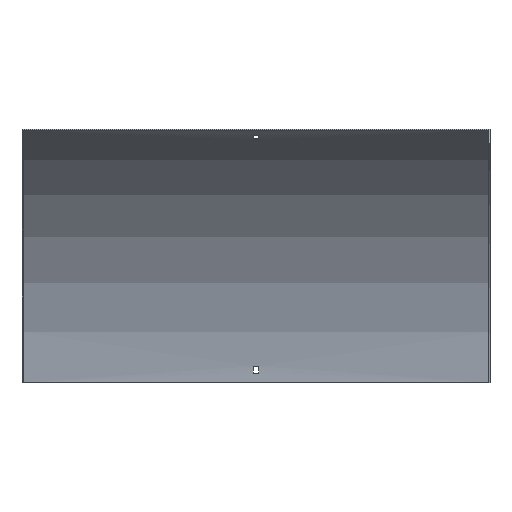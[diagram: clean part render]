
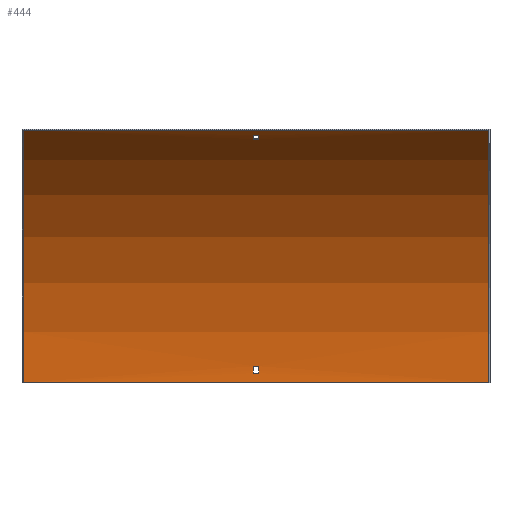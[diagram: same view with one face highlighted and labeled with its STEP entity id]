
A CAD part, front view. The second image highlights one B-rep face of the part: STEP entity #444.
In plain terms, the highlighted cylindrical face has radius 375 mm (diameter 750 mm), a partial arc.
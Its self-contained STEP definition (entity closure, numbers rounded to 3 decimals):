
#5 = DIRECTION ( 'NONE',  ( 0., 1., 0. ) ) ;
#11 = AXIS2_PLACEMENT_3D ( 'NONE', #318, #557, #117 ) ;
#12 = VERTEX_POINT ( 'NONE', #546 ) ;
#17 = CARTESIAN_POINT ( 'NONE',  ( -300., -1.5, 0. ) ) ;
#25 = EDGE_CURVE ( 'NONE', #574, #12, #431, .T. ) ;
#29 = CARTESIAN_POINT ( 'NONE',  ( 3.25, -1.692, 12. ) ) ;
#48 = ORIENTED_EDGE ( 'NONE', *, *, #386, .T. ) ;
#57 = AXIS2_PLACEMENT_3D ( 'NONE', #234, #429, #5 ) ;
#62 = CARTESIAN_POINT ( 'NONE',  ( 301.5, -376.5, 0. ) ) ;
#65 = CARTESIAN_POINT ( 'NONE',  ( 301.5, -171.108, 313.75 ) ) ;
#67 = DIRECTION ( 'NONE',  ( 0., 0., 1. ) ) ;
#75 = DIRECTION ( 'NONE',  ( -1., 0., 0. ) ) ;
#77 = DIRECTION ( 'NONE',  ( -1., 0., 0. ) ) ;
#83 = VERTEX_POINT ( 'NONE', #348 ) ;
#86 = AXIS2_PLACEMENT_3D ( 'NONE', #62, #75, #402 ) ;
#96 = LINE ( 'NONE', #65, #538 ) ;
#97 = VERTEX_POINT ( 'NONE', #472 ) ;
#114 = ORIENTED_EDGE ( 'NONE', *, *, #342, .F. ) ;
#115 = LINE ( 'NONE', #194, #198 ) ;
#117 = DIRECTION ( 'NONE',  ( 0., 0., -1. ) ) ;
#131 = ORIENTED_EDGE ( 'NONE', *, *, #605, .F. ) ;
#132 = LINE ( 'NONE', #182, #237 ) ;
#138 = DIRECTION ( 'NONE',  ( -1., 0., 0. ) ) ;
#143 = CIRCLE ( 'NONE', #470, 375. ) ;
#154 = DIRECTION ( 'NONE',  ( 0., 0., -1. ) ) ;
#156 = DIRECTION ( 'NONE',  ( -1., 0., 0. ) ) ;
#161 = CARTESIAN_POINT ( 'NONE',  ( 300., -189., 324.76 ) ) ;
#164 = EDGE_CURVE ( 'NONE', #97, #517, #96, .T. ) ;
#167 = EDGE_LOOP ( 'NONE', ( #425, #535, #48, #265 ) ) ;
#179 = EDGE_LOOP ( 'NONE', ( #131, #114, #374, #317 ) ) ;
#182 = CARTESIAN_POINT ( 'NONE',  ( 301.5, -178.704, 318.593 ) ) ;
#186 = AXIS2_PLACEMENT_3D ( 'NONE', #310, #295, #154 ) ;
#190 = CIRCLE ( 'NONE', #594, 375. ) ;
#194 = CARTESIAN_POINT ( 'NONE',  ( 301.5, -2.088, 21. ) ) ;
#198 = VECTOR ( 'NONE', #311, 1000. ) ;
#207 = CYLINDRICAL_SURFACE ( 'NONE', #86, 375. ) ;
#217 = ORIENTED_EDGE ( 'NONE', *, *, #486, .F. ) ;
#229 = CARTESIAN_POINT ( 'NONE',  ( 3.25, -376.5, 0. ) ) ;
#230 = CARTESIAN_POINT ( 'NONE',  ( 300., -1.5, 0. ) ) ;
#234 = CARTESIAN_POINT ( 'NONE',  ( -3.25, -376.5, 0. ) ) ;
#237 = VECTOR ( 'NONE', #520, 1000. ) ;
#238 = LINE ( 'NONE', #405, #467 ) ;
#248 = CARTESIAN_POINT ( 'NONE',  ( 300., -376.5, 0. ) ) ;
#259 = VERTEX_POINT ( 'NONE', #320 ) ;
#265 = ORIENTED_EDGE ( 'NONE', *, *, #336, .T. ) ;
#272 = CIRCLE ( 'NONE', #316, 375. ) ;
#279 = CARTESIAN_POINT ( 'NONE',  ( 3.25, -178.704, 318.593 ) ) ;
#295 = DIRECTION ( 'NONE',  ( 1., 0., 0. ) ) ;
#305 = VECTOR ( 'NONE', #77, 1000. ) ;
#310 = CARTESIAN_POINT ( 'NONE',  ( 3.25, -376.5, 0. ) ) ;
#311 = DIRECTION ( 'NONE',  ( -1., 0., 0. ) ) ;
#314 = CARTESIAN_POINT ( 'NONE',  ( -3.25, -1.692, 12. ) ) ;
#316 = AXIS2_PLACEMENT_3D ( 'NONE', #248, #443, #544 ) ;
#317 = ORIENTED_EDGE ( 'NONE', *, *, #548, .T. ) ;
#318 = CARTESIAN_POINT ( 'NONE',  ( -300., -376.5, 0. ) ) ;
#320 = CARTESIAN_POINT ( 'NONE',  ( -3.25, -2.088, 21. ) ) ;
#323 = CIRCLE ( 'NONE', #57, 375. ) ;
#336 = EDGE_CURVE ( 'NONE', #391, #97, #143, .T. ) ;
#339 = CIRCLE ( 'NONE', #11, 375. ) ;
#342 = EDGE_CURVE ( 'NONE', #373, #416, #389, .T. ) ;
#348 = CARTESIAN_POINT ( 'NONE',  ( 300., -189., 324.76 ) ) ;
#357 = CARTESIAN_POINT ( 'NONE',  ( -3.25, -376.5, 0. ) ) ;
#362 = CARTESIAN_POINT ( 'NONE',  ( -3.25, -178.704, 318.593 ) ) ;
#364 = EDGE_LOOP ( 'NONE', ( #394, #217, #480, #551 ) ) ;
#365 = VECTOR ( 'NONE', #138, 1000. ) ;
#373 = VERTEX_POINT ( 'NONE', #230 ) ;
#374 = ORIENTED_EDGE ( 'NONE', *, *, #498, .T. ) ;
#386 = EDGE_CURVE ( 'NONE', #483, #391, #132, .T. ) ;
#387 = VERTEX_POINT ( 'NONE', #432 ) ;
#389 = LINE ( 'NONE', #569, #365 ) ;
#391 = VERTEX_POINT ( 'NONE', #279 ) ;
#392 = EDGE_CURVE ( 'NONE', #517, #483, #323, .T. ) ;
#394 = ORIENTED_EDGE ( 'NONE', *, *, #423, .F. ) ;
#402 = DIRECTION ( 'NONE',  ( 0., 0., 1. ) ) ;
#405 = CARTESIAN_POINT ( 'NONE',  ( 301.5, -1.692, 12. ) ) ;
#407 = LINE ( 'NONE', #161, #305 ) ;
#408 = EDGE_CURVE ( 'NONE', #607, #574, #238, .T. ) ;
#416 = VERTEX_POINT ( 'NONE', #17 ) ;
#423 = EDGE_CURVE ( 'NONE', #259, #607, #190, .T. ) ;
#425 = ORIENTED_EDGE ( 'NONE', *, *, #164, .T. ) ;
#426 = DIRECTION ( 'NONE',  ( -1., 0., 0. ) ) ;
#429 = DIRECTION ( 'NONE',  ( 1., 0., 0. ) ) ;
#431 = CIRCLE ( 'NONE', #186, 375. ) ;
#432 = CARTESIAN_POINT ( 'NONE',  ( -300., -189., 324.76 ) ) ;
#443 = DIRECTION ( 'NONE',  ( 1., 0., 0. ) ) ;
#444 = ADVANCED_FACE ( 'NONE', ( #541, #549, #487 ), #207, .F. ) ;
#467 = VECTOR ( 'NONE', #584, 1000. ) ;
#470 = AXIS2_PLACEMENT_3D ( 'NONE', #229, #426, #474 ) ;
#472 = CARTESIAN_POINT ( 'NONE',  ( 3.25, -171.108, 313.75 ) ) ;
#474 = DIRECTION ( 'NONE',  ( 0., 0., 1. ) ) ;
#480 = ORIENTED_EDGE ( 'NONE', *, *, #25, .F. ) ;
#483 = VERTEX_POINT ( 'NONE', #362 ) ;
#486 = EDGE_CURVE ( 'NONE', #12, #259, #115, .T. ) ;
#487 = FACE_BOUND ( 'NONE', #167, .T. ) ;
#492 = DIRECTION ( 'NONE',  ( -1., 0., 0. ) ) ;
#498 = EDGE_CURVE ( 'NONE', #373, #83, #272, .T. ) ;
#500 = CARTESIAN_POINT ( 'NONE',  ( -3.25, -171.108, 313.75 ) ) ;
#517 = VERTEX_POINT ( 'NONE', #500 ) ;
#520 = DIRECTION ( 'NONE',  ( 1., 0., 0. ) ) ;
#535 = ORIENTED_EDGE ( 'NONE', *, *, #392, .T. ) ;
#538 = VECTOR ( 'NONE', #492, 1000. ) ;
#541 = FACE_BOUND ( 'NONE', #364, .T. ) ;
#544 = DIRECTION ( 'NONE',  ( 0., 0., -1. ) ) ;
#546 = CARTESIAN_POINT ( 'NONE',  ( 3.25, -2.088, 21. ) ) ;
#548 = EDGE_CURVE ( 'NONE', #83, #387, #407, .T. ) ;
#549 = FACE_OUTER_BOUND ( 'NONE', #179, .T. ) ;
#551 = ORIENTED_EDGE ( 'NONE', *, *, #408, .F. ) ;
#557 = DIRECTION ( 'NONE',  ( 1., 0., 0. ) ) ;
#569 = CARTESIAN_POINT ( 'NONE',  ( 300., -1.5, 0. ) ) ;
#574 = VERTEX_POINT ( 'NONE', #29 ) ;
#584 = DIRECTION ( 'NONE',  ( 1., 0., 0. ) ) ;
#594 = AXIS2_PLACEMENT_3D ( 'NONE', #357, #156, #67 ) ;
#605 = EDGE_CURVE ( 'NONE', #416, #387, #339, .T. ) ;
#607 = VERTEX_POINT ( 'NONE', #314 ) ;
